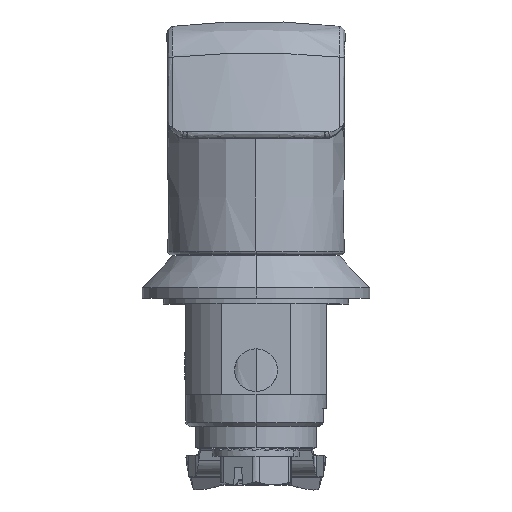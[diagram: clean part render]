
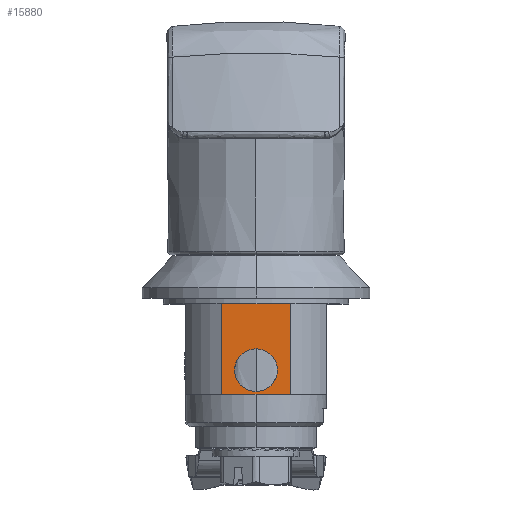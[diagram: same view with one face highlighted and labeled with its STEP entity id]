
A CAD part, top view. The second image highlights one B-rep face of the part: STEP entity #15880.
In plain terms, the highlighted planar face has unit normal (0, 0, 1) as drawn and (1, 0, 0) by its records, which use the part's own axes.
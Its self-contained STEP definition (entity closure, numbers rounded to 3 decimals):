
#67 = CARTESIAN_POINT ( 'NONE',  ( 9.875, 0., 4.5 ) ) ;
#1133 = DIRECTION ( 'NONE',  ( 0., 0., -1. ) ) ;
#1158 = DIRECTION ( 'NONE',  ( 0., 0., 1. ) ) ;
#2518 = LINE ( 'NONE', #67, #36132 ) ;
#5200 = AXIS2_PLACEMENT_3D ( 'NONE', #36784, #25045, #33555 ) ;
#5939 = EDGE_CURVE ( 'NONE', #28673, #19866, #23952, .T. ) ;
#6050 = CARTESIAN_POINT ( 'NONE',  ( 9.875, 0., 4.5 ) ) ;
#6343 = CARTESIAN_POINT ( 'NONE',  ( 9.875, -4.846, 4.5 ) ) ;
#7061 = CARTESIAN_POINT ( 'NONE',  ( 9.875, 0., 4.9 ) ) ;
#7339 = EDGE_CURVE ( 'NONE', #20261, #21754, #12288, .T. ) ;
#7351 = ORIENTED_EDGE ( 'NONE', *, *, #12652, .F. ) ;
#7369 = VERTEX_POINT ( 'NONE', #6050 ) ;
#7586 = VECTOR ( 'NONE', #20801, 1000. ) ;
#7675 = ORIENTED_EDGE ( 'NONE', *, *, #7339, .F. ) ;
#8405 = DIRECTION ( 'NONE',  ( 0., 1., 0. ) ) ;
#8661 = ORIENTED_EDGE ( 'NONE', *, *, #13239, .T. ) ;
#9656 = EDGE_LOOP ( 'NONE', ( #7675, #7351, #12579, #15420, #19225 ) ) ;
#9690 = LINE ( 'NONE', #21223, #24997 ) ;
#11352 = PLANE ( 'NONE',  #34704 ) ;
#12288 = LINE ( 'NONE', #26856, #7586 ) ;
#12579 = ORIENTED_EDGE ( 'NONE', *, *, #21901, .T. ) ;
#12652 = EDGE_CURVE ( 'NONE', #33346, #20261, #9690, .T. ) ;
#12866 = CARTESIAN_POINT ( 'NONE',  ( 9.875, 4.846, 18. ) ) ;
#13239 = EDGE_CURVE ( 'NONE', #19866, #28673, #14153, .T. ) ;
#13966 = EDGE_CURVE ( 'NONE', #7369, #28410, #15379, .T. ) ;
#13989 = CARTESIAN_POINT ( 'NONE',  ( 9.875, -4.846, 18. ) ) ;
#14153 = CIRCLE ( 'NONE', #29257, 3. ) ;
#15379 = LINE ( 'NONE', #24101, #21463 ) ;
#15420 = ORIENTED_EDGE ( 'NONE', *, *, #13966, .T. ) ;
#15880 = ADVANCED_FACE ( 'NONE', ( #25371, #36904 ), #11352, .F. ) ;
#16431 = EDGE_LOOP ( 'NONE', ( #36972, #8661 ) ) ;
#19225 = ORIENTED_EDGE ( 'NONE', *, *, #33933, .F. ) ;
#19676 = CARTESIAN_POINT ( 'NONE',  ( 9.875, -27.8, 3.606 ) ) ;
#19866 = VERTEX_POINT ( 'NONE', #7061 ) ;
#20261 = VERTEX_POINT ( 'NONE', #13989 ) ;
#20801 = DIRECTION ( 'NONE',  ( 0., 1., 0. ) ) ;
#21223 = CARTESIAN_POINT ( 'NONE',  ( 9.875, -4.846, 18. ) ) ;
#21463 = VECTOR ( 'NONE', #35644, 1000. ) ;
#21754 = VERTEX_POINT ( 'NONE', #36254 ) ;
#21901 = EDGE_CURVE ( 'NONE', #33346, #7369, #2518, .T. ) ;
#23952 = CIRCLE ( 'NONE', #5200, 3. ) ;
#24101 = CARTESIAN_POINT ( 'NONE',  ( 9.875, 0., 4.5 ) ) ;
#24189 = CARTESIAN_POINT ( 'NONE',  ( 9.875, 0., 7.9 ) ) ;
#24311 = VECTOR ( 'NONE', #1133, 1000. ) ;
#24997 = VECTOR ( 'NONE', #1158, 1000. ) ;
#25045 = DIRECTION ( 'NONE',  ( -1., 0., 0. ) ) ;
#25371 = FACE_BOUND ( 'NONE', #16431, .T. ) ;
#26856 = CARTESIAN_POINT ( 'NONE',  ( 9.875, -27.8, 18. ) ) ;
#28410 = VERTEX_POINT ( 'NONE', #30703 ) ;
#28673 = VERTEX_POINT ( 'NONE', #29905 ) ;
#29257 = AXIS2_PLACEMENT_3D ( 'NONE', #24189, #30590, #35727 ) ;
#29905 = CARTESIAN_POINT ( 'NONE',  ( 9.875, 0., 10.9 ) ) ;
#30590 = DIRECTION ( 'NONE',  ( -1., 0., 0. ) ) ;
#30703 = CARTESIAN_POINT ( 'NONE',  ( 9.875, 4.846, 4.5 ) ) ;
#31008 = DIRECTION ( 'NONE',  ( 0., 0., 1. ) ) ;
#31600 = DIRECTION ( 'NONE',  ( -1., 0., 0. ) ) ;
#32942 = LINE ( 'NONE', #12866, #24311 ) ;
#33346 = VERTEX_POINT ( 'NONE', #6343 ) ;
#33555 = DIRECTION ( 'NONE',  ( 0., 0., 1. ) ) ;
#33933 = EDGE_CURVE ( 'NONE', #21754, #28410, #32942, .T. ) ;
#34704 = AXIS2_PLACEMENT_3D ( 'NONE', #19676, #31600, #31008 ) ;
#35644 = DIRECTION ( 'NONE',  ( 0., 1., 0. ) ) ;
#35727 = DIRECTION ( 'NONE',  ( 0., 0., 1. ) ) ;
#36132 = VECTOR ( 'NONE', #8405, 1000. ) ;
#36254 = CARTESIAN_POINT ( 'NONE',  ( 9.875, 4.846, 18. ) ) ;
#36784 = CARTESIAN_POINT ( 'NONE',  ( 9.875, 0., 7.9 ) ) ;
#36904 = FACE_OUTER_BOUND ( 'NONE', #9656, .T. ) ;
#36972 = ORIENTED_EDGE ( 'NONE', *, *, #5939, .T. ) ;
